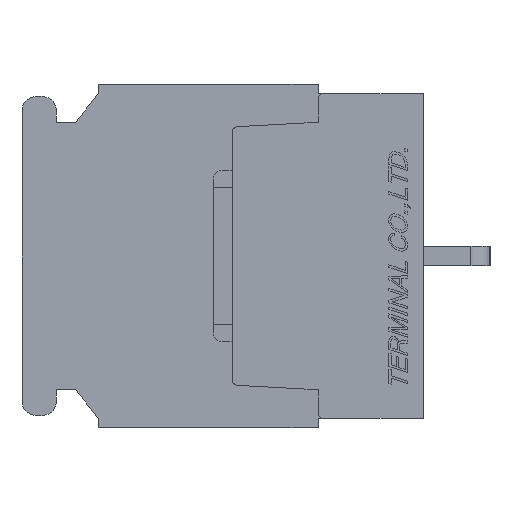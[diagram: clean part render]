
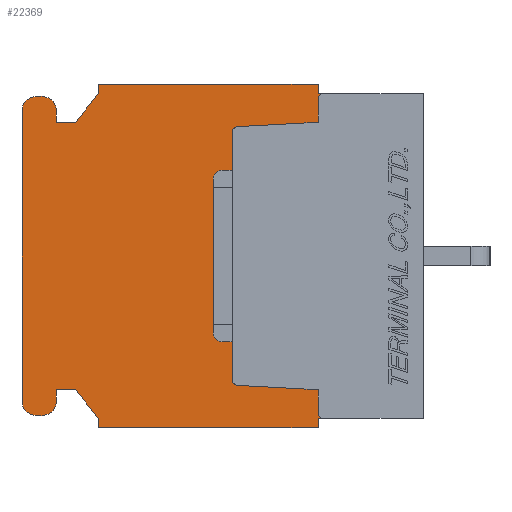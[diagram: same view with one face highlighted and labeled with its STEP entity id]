
A CAD part, left-side view. The second image highlights one B-rep face of the part: STEP entity #22369.
In plain terms, the highlighted planar face has unit normal (-1, 0, 0).
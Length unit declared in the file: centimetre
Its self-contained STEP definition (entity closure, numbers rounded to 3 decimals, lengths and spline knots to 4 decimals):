
#1059=CIRCLE('',#37926,0.03);
#1061=CIRCLE('',#37929,0.03);
#1063=CIRCLE('',#37934,0.03);
#1067=CIRCLE('',#37940,0.03);
#1075=CIRCLE('',#38097,0.075);
#1076=CIRCLE('',#38098,0.075);
#1077=CIRCLE('',#38099,0.075);
#1078=CIRCLE('',#38100,0.075);
#1840=VERTEX_POINT('',#30599);
#1841=VERTEX_POINT('',#30601);
#1844=VERTEX_POINT('',#30608);
#1845=VERTEX_POINT('',#30610);
#1847=VERTEX_POINT('',#30616);
#1849=VERTEX_POINT('',#30622);
#1851=VERTEX_POINT('',#30628);
#1856=VERTEX_POINT('',#30640);
#1857=VERTEX_POINT('',#30642);
#1859=VERTEX_POINT('',#30648);
#2218=VERTEX_POINT('',#32218);
#2219=VERTEX_POINT('',#32220);
#2220=VERTEX_POINT('',#32222);
#2221=VERTEX_POINT('',#32224);
#2222=VERTEX_POINT('',#32226);
#2223=VERTEX_POINT('',#32228);
#2224=VERTEX_POINT('',#32230);
#2225=VERTEX_POINT('',#32232);
#2226=VERTEX_POINT('',#32234);
#2227=VERTEX_POINT('',#32236);
#2228=VERTEX_POINT('',#32238);
#2229=VERTEX_POINT('',#32240);
#2230=VERTEX_POINT('',#32242);
#2231=VERTEX_POINT('',#32244);
#2232=VERTEX_POINT('',#32246);
#2233=VERTEX_POINT('',#32248);
#2234=VERTEX_POINT('',#32250);
#2235=VERTEX_POINT('',#32252);
#2236=VERTEX_POINT('',#32254);
#2237=VERTEX_POINT('',#32256);
#4208=VECTOR('',#25034,1.);
#4211=VECTOR('',#25038,1.);
#4217=VECTOR('',#25062,1.);
#4220=VECTOR('',#25066,1.);
#4622=VECTOR('',#25600,1.);
#4649=VECTOR('',#25660,1.);
#4650=VECTOR('',#25661,1.);
#4651=VECTOR('',#25662,1.);
#4652=VECTOR('',#25663,1.);
#4653=VECTOR('',#25664,1.);
#4654=VECTOR('',#25665,1.);
#4655=VECTOR('',#25666,1.);
#4656=VECTOR('',#25669,1.);
#4657=VECTOR('',#25672,1.);
#4658=VECTOR('',#25675,1.);
#4659=VECTOR('',#25678,1.);
#4660=VECTOR('',#25679,1.);
#4661=VECTOR('',#25680,1.);
#4662=VECTOR('',#25681,1.);
#4663=VECTOR('',#25682,1.);
#4664=VECTOR('',#25683,1.);
#4665=VECTOR('',#25684,1.);
#6730=LINE('',#30615,#4208);
#6733=LINE('',#30621,#4211);
#6739=LINE('',#30647,#4217);
#6742=LINE('',#30652,#4220);
#7144=LINE('',#32149,#4622);
#7171=LINE('',#32217,#4649);
#7172=LINE('',#32219,#4650);
#7173=LINE('',#32221,#4651);
#7174=LINE('',#32223,#4652);
#7175=LINE('',#32225,#4653);
#7176=LINE('',#32227,#4654);
#7177=LINE('',#32229,#4655);
#7178=LINE('',#32233,#4656);
#7179=LINE('',#32237,#4657);
#7180=LINE('',#32241,#4658);
#7181=LINE('',#32245,#4659);
#7182=LINE('',#32247,#4660);
#7183=LINE('',#32249,#4661);
#7184=LINE('',#32251,#4662);
#7185=LINE('',#32253,#4663);
#7186=LINE('',#32255,#4664);
#7187=LINE('',#32257,#4665);
#9407=EDGE_CURVE('',#1840,#1841,#1059,.T.);
#9411=EDGE_CURVE('',#1844,#1845,#1061,.T.);
#9414=EDGE_CURVE('',#1845,#1847,#6730,.T.);
#9417=EDGE_CURVE('',#1847,#1849,#6733,.T.);
#9420=EDGE_CURVE('',#1849,#1851,#1063,.T.);
#9426=EDGE_CURVE('',#1856,#1857,#1067,.T.);
#9429=EDGE_CURVE('',#1857,#1859,#6739,.T.);
#9432=EDGE_CURVE('',#1859,#1840,#6742,.T.);
#9940=EDGE_CURVE('',#1851,#1856,#7144,.T.);
#9973=EDGE_CURVE('',#1844,#2218,#7171,.T.);
#9974=EDGE_CURVE('',#2218,#2219,#7172,.T.);
#9975=EDGE_CURVE('',#2219,#2220,#7173,.T.);
#9976=EDGE_CURVE('',#2220,#2221,#7174,.T.);
#9977=EDGE_CURVE('',#2221,#2222,#7175,.T.);
#9978=EDGE_CURVE('',#2222,#2223,#7176,.T.);
#9979=EDGE_CURVE('',#2223,#2224,#7177,.T.);
#9980=EDGE_CURVE('',#2225,#2224,#1075,.T.);
#9981=EDGE_CURVE('',#2225,#2226,#7178,.T.);
#9982=EDGE_CURVE('',#2227,#2226,#1076,.T.);
#9983=EDGE_CURVE('',#2227,#2228,#7179,.T.);
#9984=EDGE_CURVE('',#2229,#2228,#1077,.T.);
#9985=EDGE_CURVE('',#2229,#2230,#7180,.T.);
#9986=EDGE_CURVE('',#2231,#2230,#1078,.T.);
#9987=EDGE_CURVE('',#2231,#2232,#7181,.T.);
#9988=EDGE_CURVE('',#2232,#2233,#7182,.T.);
#9989=EDGE_CURVE('',#2233,#2234,#7183,.T.);
#9990=EDGE_CURVE('',#2234,#2235,#7184,.T.);
#9991=EDGE_CURVE('',#2235,#2236,#7185,.T.);
#9992=EDGE_CURVE('',#2236,#2237,#7186,.T.);
#9993=EDGE_CURVE('',#2237,#1841,#7187,.T.);
#14628=ORIENTED_EDGE('',*,*,#9411,.F.);
#14629=ORIENTED_EDGE('',*,*,#9973,.T.);
#14630=ORIENTED_EDGE('',*,*,#9974,.T.);
#14631=ORIENTED_EDGE('',*,*,#9975,.T.);
#14632=ORIENTED_EDGE('',*,*,#9976,.T.);
#14633=ORIENTED_EDGE('',*,*,#9977,.T.);
#14634=ORIENTED_EDGE('',*,*,#9978,.T.);
#14635=ORIENTED_EDGE('',*,*,#9979,.T.);
#14636=ORIENTED_EDGE('',*,*,#9980,.F.);
#14637=ORIENTED_EDGE('',*,*,#9981,.T.);
#14638=ORIENTED_EDGE('',*,*,#9982,.F.);
#14639=ORIENTED_EDGE('',*,*,#9983,.T.);
#14640=ORIENTED_EDGE('',*,*,#9984,.F.);
#14641=ORIENTED_EDGE('',*,*,#9985,.T.);
#14642=ORIENTED_EDGE('',*,*,#9986,.F.);
#14643=ORIENTED_EDGE('',*,*,#9987,.T.);
#14644=ORIENTED_EDGE('',*,*,#9988,.T.);
#14645=ORIENTED_EDGE('',*,*,#9989,.T.);
#14646=ORIENTED_EDGE('',*,*,#9990,.T.);
#14647=ORIENTED_EDGE('',*,*,#9991,.T.);
#14648=ORIENTED_EDGE('',*,*,#9992,.T.);
#14649=ORIENTED_EDGE('',*,*,#9993,.T.);
#14650=ORIENTED_EDGE('',*,*,#9407,.F.);
#14651=ORIENTED_EDGE('',*,*,#9432,.F.);
#14652=ORIENTED_EDGE('',*,*,#9429,.F.);
#14653=ORIENTED_EDGE('',*,*,#9426,.F.);
#14654=ORIENTED_EDGE('',*,*,#9940,.F.);
#14655=ORIENTED_EDGE('',*,*,#9420,.F.);
#14656=ORIENTED_EDGE('',*,*,#9417,.F.);
#14657=ORIENTED_EDGE('',*,*,#9414,.F.);
#19506=EDGE_LOOP('',(#14628,#14629,#14630,#14631,#14632,#14633,#14634,#14635,
#14636,#14637,#14638,#14639,#14640,#14641,#14642,#14643,#14644,#14645,#14646,
#14647,#14648,#14649,#14650,#14651,#14652,#14653,#14654,#14655,#14656,#14657));
#20962=FACE_BOUND('',#19506,.T.);
#22369=ADVANCED_FACE('',(#20962),#23548,.F.);
#23548=PLANE('',#38096);
#25021=DIRECTION('',(-1.,0.,0.));
#25022=DIRECTION('',(0.,0.,0.03));
#25029=DIRECTION('',(-1.,0.,0.));
#25030=DIRECTION('',(0.,0.,0.03));
#25034=DIRECTION('',(0.,0.,-1.));
#25038=DIRECTION('',(0.,0.999,-0.054));
#25044=DIRECTION('',(-1.,0.,0.));
#25045=DIRECTION('',(0.,0.,0.03));
#25057=DIRECTION('',(-1.,0.,0.));
#25058=DIRECTION('',(0.,0.,0.03));
#25062=DIRECTION('',(0.,-0.999,-0.054));
#25066=DIRECTION('',(0.,0.,-1.));
#25600=DIRECTION('',(0.,0.,-1.));
#25659=DIRECTION('',(1.,0.,0.));
#25660=DIRECTION('',(0.,1.,0.));
#25661=DIRECTION('',(0.,0.,1.));
#25662=DIRECTION('',(0.,1.,0.));
#25663=DIRECTION('',(0.,0.,-1.));
#25664=DIRECTION('',(0.,0.625,-0.781));
#25665=DIRECTION('',(0.,1.,0.));
#25666=DIRECTION('',(0.,0.,1.));
#25667=DIRECTION('',(1.,0.,0.));
#25668=DIRECTION('',(0.,0.,-0.075));
#25669=DIRECTION('',(0.,1.,0.));
#25670=DIRECTION('',(1.,0.,0.));
#25671=DIRECTION('',(0.,0.,-0.075));
#25672=DIRECTION('',(0.,0.,-1.));
#25673=DIRECTION('',(1.,0.,0.));
#25674=DIRECTION('',(0.,0.,-0.075));
#25675=DIRECTION('',(0.,-1.,0.));
#25676=DIRECTION('',(1.,0.,0.));
#25677=DIRECTION('',(0.,0.,-0.075));
#25678=DIRECTION('',(0.,0.,1.));
#25679=DIRECTION('',(0.,-1.,0.));
#25680=DIRECTION('',(0.,-0.625,-0.781));
#25681=DIRECTION('',(0.,0.,-1.));
#25682=DIRECTION('',(0.,-1.,0.));
#25683=DIRECTION('',(0.,0.,1.));
#25684=DIRECTION('',(0.,-1.,0.));
#30599=CARTESIAN_POINT('',(-1.3,0.55,-0.82));
#30600=CARTESIAN_POINT('',(-1.3,0.52,-0.82));
#30601=CARTESIAN_POINT('',(-1.3,0.52,-0.85));
#30608=CARTESIAN_POINT('',(-1.3,0.52,0.85));
#30609=CARTESIAN_POINT('',(-1.3,0.52,0.82));
#30610=CARTESIAN_POINT('',(-1.3,0.55,0.82));
#30615=CARTESIAN_POINT('',(-1.3,0.55,0.82));
#30616=CARTESIAN_POINT('',(-1.3,0.55,0.7));
#30621=CARTESIAN_POINT('',(-1.3,0.55,0.7));
#30622=CARTESIAN_POINT('',(-1.3,0.9718,0.6773));
#30627=CARTESIAN_POINT('',(-1.3,0.97,0.6473));
#30628=CARTESIAN_POINT('',(-1.3,1.,0.6473));
#30640=CARTESIAN_POINT('',(-1.3,1.,-0.6473));
#30641=CARTESIAN_POINT('',(-1.3,0.97,-0.6473));
#30642=CARTESIAN_POINT('',(-1.3,0.9718,-0.6773));
#30647=CARTESIAN_POINT('',(-1.3,0.9718,-0.6773));
#30648=CARTESIAN_POINT('',(-1.3,0.55,-0.7));
#30652=CARTESIAN_POINT('',(-1.3,0.55,-0.7));
#32149=CARTESIAN_POINT('',(-1.3,1.,0.6473));
#32216=CARTESIAN_POINT('',(-1.3,1.0745,0.));
#32217=CARTESIAN_POINT('',(-1.3,0.,0.85));
#32218=CARTESIAN_POINT('',(-1.3,0.55,0.85));
#32219=CARTESIAN_POINT('',(-1.3,0.55,0.85));
#32220=CARTESIAN_POINT('',(-1.3,0.55,0.9));
#32221=CARTESIAN_POINT('',(-1.3,0.55,0.9));
#32222=CARTESIAN_POINT('',(-1.3,1.7,0.9));
#32223=CARTESIAN_POINT('',(-1.3,1.7,0.9));
#32224=CARTESIAN_POINT('',(-1.3,1.7,0.85));
#32225=CARTESIAN_POINT('',(-1.3,1.7,0.85));
#32226=CARTESIAN_POINT('',(-1.3,1.82,0.7));
#32227=CARTESIAN_POINT('',(-1.3,1.82,0.7));
#32228=CARTESIAN_POINT('',(-1.3,1.92,0.7));
#32229=CARTESIAN_POINT('',(-1.3,1.92,0.7));
#32230=CARTESIAN_POINT('',(-1.3,1.92,0.76));
#32231=CARTESIAN_POINT('',(-1.3,1.995,0.76));
#32232=CARTESIAN_POINT('',(-1.3,1.995,0.835));
#32233=CARTESIAN_POINT('',(-1.3,1.995,0.835));
#32234=CARTESIAN_POINT('',(-1.3,2.025,0.835));
#32235=CARTESIAN_POINT('',(-1.3,2.025,0.76));
#32236=CARTESIAN_POINT('',(-1.3,2.1,0.76));
#32237=CARTESIAN_POINT('',(-1.3,2.1,0.76));
#32238=CARTESIAN_POINT('',(-1.3,2.1,-0.76));
#32239=CARTESIAN_POINT('',(-1.3,2.025,-0.76));
#32240=CARTESIAN_POINT('',(-1.3,2.025,-0.835));
#32241=CARTESIAN_POINT('',(-1.3,2.025,-0.835));
#32242=CARTESIAN_POINT('',(-1.3,1.995,-0.835));
#32243=CARTESIAN_POINT('',(-1.3,1.995,-0.76));
#32244=CARTESIAN_POINT('',(-1.3,1.92,-0.76));
#32245=CARTESIAN_POINT('',(-1.3,1.92,-0.76));
#32246=CARTESIAN_POINT('',(-1.3,1.92,-0.7));
#32247=CARTESIAN_POINT('',(-1.3,1.92,-0.7));
#32248=CARTESIAN_POINT('',(-1.3,1.82,-0.7));
#32249=CARTESIAN_POINT('',(-1.3,1.82,-0.7));
#32250=CARTESIAN_POINT('',(-1.3,1.7,-0.85));
#32251=CARTESIAN_POINT('',(-1.3,1.7,-0.85));
#32252=CARTESIAN_POINT('',(-1.3,1.7,-0.9));
#32253=CARTESIAN_POINT('',(-1.3,1.7,-0.9));
#32254=CARTESIAN_POINT('',(-1.3,0.55,-0.9));
#32255=CARTESIAN_POINT('',(-1.3,0.55,-0.9));
#32256=CARTESIAN_POINT('',(-1.3,0.55,-0.85));
#32257=CARTESIAN_POINT('',(-1.3,0.55,-0.85));
#37926=AXIS2_PLACEMENT_3D('',#30600,#25021,#25022);
#37929=AXIS2_PLACEMENT_3D('',#30609,#25029,#25030);
#37934=AXIS2_PLACEMENT_3D('',#30627,#25044,#25045);
#37940=AXIS2_PLACEMENT_3D('',#30641,#25057,#25058);
#38096=AXIS2_PLACEMENT_3D('',#32216,#25659,$);
#38097=AXIS2_PLACEMENT_3D('',#32231,#25667,#25668);
#38098=AXIS2_PLACEMENT_3D('',#32235,#25670,#25671);
#38099=AXIS2_PLACEMENT_3D('',#32239,#25673,#25674);
#38100=AXIS2_PLACEMENT_3D('',#32243,#25676,#25677);
